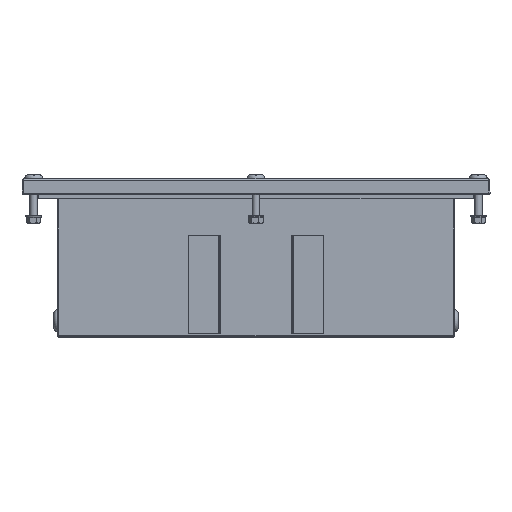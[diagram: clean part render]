
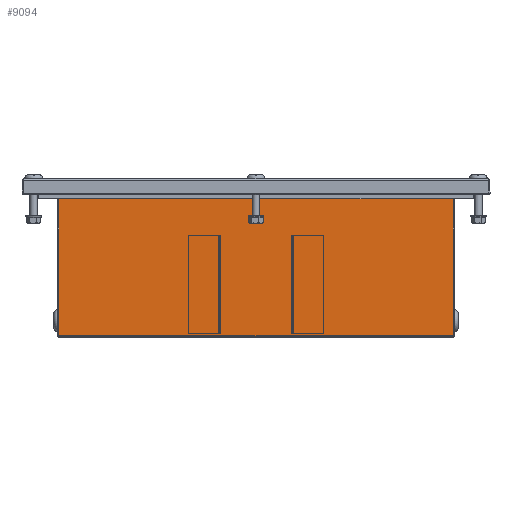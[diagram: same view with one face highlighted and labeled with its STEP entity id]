
A CAD part, front view. The second image highlights one B-rep face of the part: STEP entity #9094.
In plain terms, the highlighted planar face has unit normal (0, -1, 0).
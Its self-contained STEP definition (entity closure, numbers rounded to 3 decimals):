
#154 = CARTESIAN_POINT ( 'NONE',  ( 159.793, -686., 126.5 ) ) ;
#252 = EDGE_CURVE ( 'NONE', #2875, #2234, #9935, .T. ) ;
#435 = VECTOR ( 'NONE', #7637, 1000. ) ;
#559 = VECTOR ( 'NONE', #4167, 1000. ) ;
#707 = CARTESIAN_POINT ( 'NONE',  ( -159.793, -686., 0.5 ) ) ;
#1140 = VERTEX_POINT ( 'NONE', #1965 ) ;
#1377 = LINE ( 'NONE', #707, #5980 ) ;
#1479 = CARTESIAN_POINT ( 'NONE',  ( -159.793, -686., 126.5 ) ) ;
#1727 = CARTESIAN_POINT ( 'NONE',  ( 0., -686., 0. ) ) ;
#1777 = DIRECTION ( 'NONE',  ( 0., 0., 1. ) ) ;
#1827 = VECTOR ( 'NONE', #8047, 1000. ) ;
#1965 = CARTESIAN_POINT ( 'NONE',  ( -159.793, -686., 0.5 ) ) ;
#2008 = LINE ( 'NONE', #1479, #435 ) ;
#2234 = VERTEX_POINT ( 'NONE', #154 ) ;
#2318 = ORIENTED_EDGE ( 'NONE', *, *, #9969, .F. ) ;
#2552 = EDGE_CURVE ( 'NONE', #9569, #11432, #4545, .T. ) ;
#2563 = CARTESIAN_POINT ( 'NONE',  ( 159.793, -686., 0.5 ) ) ;
#2787 = LINE ( 'NONE', #8332, #7621 ) ;
#2875 = VERTEX_POINT ( 'NONE', #10164 ) ;
#2985 = EDGE_CURVE ( 'NONE', #11432, #12218, #11230, .T. ) ;
#3135 = ORIENTED_EDGE ( 'NONE', *, *, #2552, .F. ) ;
#3221 = CARTESIAN_POINT ( 'NONE',  ( 160.429, -686., 0.5 ) ) ;
#3253 = DIRECTION ( 'NONE',  ( 1., 0., 0. ) ) ;
#3369 = CARTESIAN_POINT ( 'NONE',  ( -159.793, -686., 126.5 ) ) ;
#3411 = VECTOR ( 'NONE', #10423, 1000. ) ;
#3722 = LINE ( 'NONE', #4846, #6958 ) ;
#4043 = CARTESIAN_POINT ( 'NONE',  ( 160.429, -686., 126.5 ) ) ;
#4167 = DIRECTION ( 'NONE',  ( 0., 0., 1. ) ) ;
#4545 = LINE ( 'NONE', #12754, #559 ) ;
#4637 = ORIENTED_EDGE ( 'NONE', *, *, #12909, .F. ) ;
#4846 = CARTESIAN_POINT ( 'NONE',  ( 0., -686., 0.5 ) ) ;
#5261 = DIRECTION ( 'NONE',  ( 0., 0., 1. ) ) ;
#5753 = VECTOR ( 'NONE', #5261, 1000. ) ;
#5857 = ORIENTED_EDGE ( 'NONE', *, *, #2985, .F. ) ;
#5861 = DIRECTION ( 'NONE',  ( -1., 0., 0. ) ) ;
#5980 = VECTOR ( 'NONE', #6776, 1000. ) ;
#6726 = CARTESIAN_POINT ( 'NONE',  ( -160.429, -686., 0.5 ) ) ;
#6776 = DIRECTION ( 'NONE',  ( -1., 0., 0. ) ) ;
#6839 = PLANE ( 'NONE',  #8803 ) ;
#6930 = FACE_OUTER_BOUND ( 'NONE', #12968, .T. ) ;
#6958 = VECTOR ( 'NONE', #5861, 1000. ) ;
#7356 = ORIENTED_EDGE ( 'NONE', *, *, #10824, .T. ) ;
#7467 = ORIENTED_EDGE ( 'NONE', *, *, #9587, .F. ) ;
#7621 = VECTOR ( 'NONE', #3253, 1000. ) ;
#7637 = DIRECTION ( 'NONE',  ( 1., 0., 0. ) ) ;
#7869 = CARTESIAN_POINT ( 'NONE',  ( 160.429, -686., 0.5 ) ) ;
#7876 = DIRECTION ( 'NONE',  ( 0., 1., 0. ) ) ;
#8047 = DIRECTION ( 'NONE',  ( -1., 0., 0. ) ) ;
#8332 = CARTESIAN_POINT ( 'NONE',  ( 159.793, -686., 0.5 ) ) ;
#8803 = AXIS2_PLACEMENT_3D ( 'NONE', #1727, #7876, #1777 ) ;
#9094 = ADVANCED_FACE ( 'NONE', ( #6930 ), #6839, .F. ) ;
#9383 = CARTESIAN_POINT ( 'NONE',  ( -160.429, -686., 126.5 ) ) ;
#9569 = VERTEX_POINT ( 'NONE', #6726 ) ;
#9587 = EDGE_CURVE ( 'NONE', #1140, #9569, #1377, .T. ) ;
#9935 = LINE ( 'NONE', #4043, #1827 ) ;
#9969 = EDGE_CURVE ( 'NONE', #10369, #1140, #3722, .T. ) ;
#10164 = CARTESIAN_POINT ( 'NONE',  ( 160.429, -686., 126.5 ) ) ;
#10369 = VERTEX_POINT ( 'NONE', #2563 ) ;
#10423 = DIRECTION ( 'NONE',  ( 1., 0., 0. ) ) ;
#10625 = CARTESIAN_POINT ( 'NONE',  ( -160.429, -686., 126.5 ) ) ;
#10824 = EDGE_CURVE ( 'NONE', #11740, #2875, #12713, .T. ) ;
#11230 = LINE ( 'NONE', #10625, #3411 ) ;
#11403 = EDGE_CURVE ( 'NONE', #10369, #11740, #2787, .T. ) ;
#11432 = VERTEX_POINT ( 'NONE', #9383 ) ;
#11620 = ORIENTED_EDGE ( 'NONE', *, *, #252, .T. ) ;
#11740 = VERTEX_POINT ( 'NONE', #7869 ) ;
#11918 = ORIENTED_EDGE ( 'NONE', *, *, #11403, .T. ) ;
#12218 = VERTEX_POINT ( 'NONE', #3369 ) ;
#12713 = LINE ( 'NONE', #3221, #5753 ) ;
#12754 = CARTESIAN_POINT ( 'NONE',  ( -160.429, -686., 0.5 ) ) ;
#12909 = EDGE_CURVE ( 'NONE', #12218, #2234, #2008, .T. ) ;
#12968 = EDGE_LOOP ( 'NONE', ( #4637, #5857, #3135, #7467, #2318, #11918, #7356, #11620 ) ) ;
